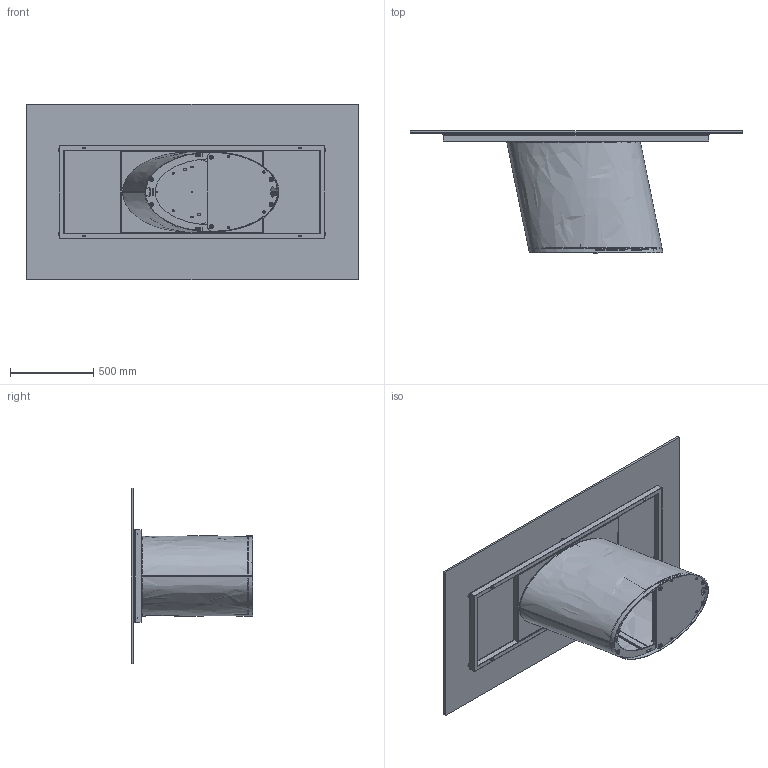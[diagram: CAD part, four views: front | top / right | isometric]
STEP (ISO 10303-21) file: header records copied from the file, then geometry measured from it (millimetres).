
FILE_DESCRIPTION (( 'STEP AP203' ), '1' );
FILE_NAME ('DO21G.STEP', '2024-08-06T13:09:03', ( '' ), ( '' ), 'SwSTEP 2.0', 'SolidWorks 2022', '' );
FILE_SCHEMA (( 'CONFIG_CONTROL_DESIGN' ));
Length unit declared in the file: millimetre
Products named in the file (20): COLLO TELAIO UNIVERSALE TTAV01 CON FERRAMENTA_MTG TOP CRISTALLO VERNICIATO-CERAMICA; DOB000000_05-00-Zavorra intenra del dorado_Default<A macchina>; DOB000000_07-00-lamiera guscio sx_Default<A macchina>; M8xXXmm_M8X30mm; DOB000000_08-00-Zavorra inferiore_Default<A macchina>; DO21G; DOB000000_03-00-Piastra  inferiore_Default<A macchina>; TTAV01_01-05-TELAIO UNIVERSALE X TAVOLI 180 240cm; 434070-00-PIEDINO TPV GOMMA NERO D. 30x8max18_filo estetico; DOB000000_01-00-piastra superiore _Default<A macchina>; DOB000000_02-00-barra rettangoalre di supporto_Default<A macchina>; TTAV01-05-TELAIO UNIVERSALE X TAVOLI 180 240cm; C2XCRXX-00-Piani Rettangolari Cristallo_21 2000x1060; barra filettata H.72cm_barra; DOB000000-00-DORADO BASE GREZZO; piedino dorado; DOB000000_06-00-Lamiera guscio dx_Default<A macchina>; nut_M8_M8; TTAV01_02-05-VASSOIO IRRIGIDIMENTO TELAIO UNIVERSALE; DOB000000_04-00-contrapesso filettato_Default<A macchina>
Assembly tree (40 placements, depth 4):
  DO21G
    DOB000000-00-DORADO BASE GREZZO
      DOB000000_08-00-Zavorra inferiore_Default<A macchina>
      DOB000000_04-00-contrapesso filettato_Default<A macchina>
      DOB000000_05-00-Zavorra intenra del dorado_Default<A macchina>  x4
      DOB000000_01-00-piastra superiore _Default<A macchina>
      DOB000000_07-00-lamiera guscio sx_Default<A macchina>
      DOB000000_02-00-barra rettangoalre di supporto_Default<A macchina>  x4
      DOB000000_03-00-Piastra  inferiore_Default<A macchina>
      DOB000000_06-00-Lamiera guscio dx_Default<A macchina>
      M8xXXmm_M8X30mm  x4
      nut_M8_M8  x2
      piedino dorado  x6
      barra filettata H.72cm_barra  x2
    COLLO TELAIO UNIVERSALE TTAV01 CON FERRAMENTA_MTG TOP CRISTALLO VERNICIATO-CERAMICA
      TTAV01-05-TELAIO UNIVERSALE X TAVOLI 180 240cm
        TTAV01_02-05-VASSOIO IRRIGIDIMENTO TELAIO UNIVERSALE
        TTAV01_01-05-TELAIO UNIVERSALE X TAVOLI 180 240cm
      434070-00-PIEDINO TPV GOMMA NERO D. 30x8max18_filo estetico  x6
    C2XCRXX-00-Piani Rettangolari Cristallo_21 2000x1060
Bounding box: 2000 x 734 x 1060 mm (x, y, z)
Volume: 37598901.2 mm3; surface area: 11569991.7 mm2
Topology: 49 solids, 49 shells, 1104 faces, 2676 edges, 1684 vertices
Faces by surface type: cylinder 470, plane 408, torus 100, cone 92, bspline 26, sphere 8
Entity records: 26485 total; most frequent: CARTESIAN_POINT 7788, DIRECTION 3459, ORIENTED_EDGE 3236, EDGE_CURVE 1618, AXIS2_PLACEMENT_3D 1279, VERTEX_POINT 1042, VECTOR 901, LINE 901
